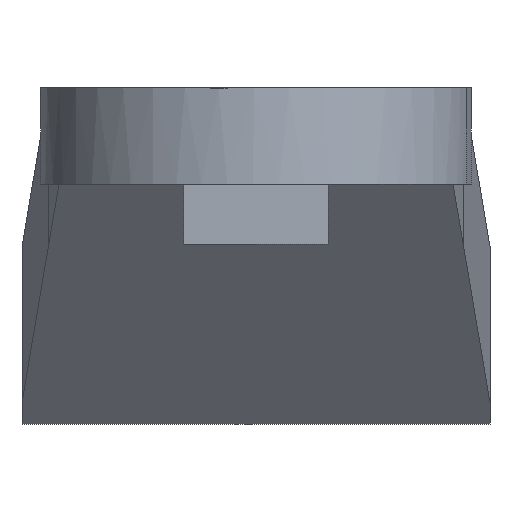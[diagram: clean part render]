
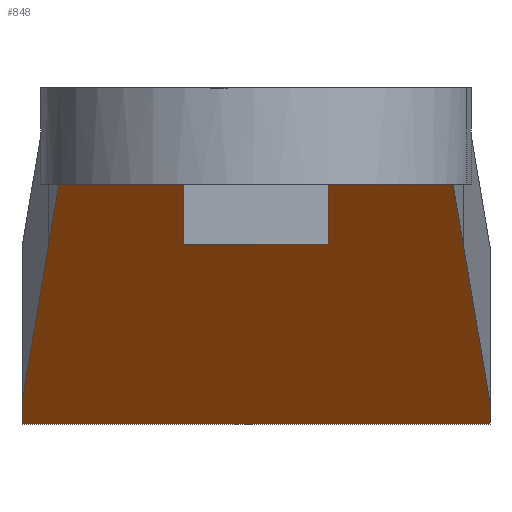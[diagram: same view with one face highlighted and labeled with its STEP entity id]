
A CAD part, left-side view. The second image highlights one B-rep face of the part: STEP entity #848.
In plain terms, the highlighted planar face has unit normal (-0.751, 0, -0.66).
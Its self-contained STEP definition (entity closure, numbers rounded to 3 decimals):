
#26 = DIRECTION ( 'NONE',  ( -0.66, 0., 0.751 ) ) ;
#54 = CARTESIAN_POINT ( 'NONE',  ( 15.712, -8.637, -2.517 ) ) ;
#59 = VERTEX_POINT ( 'NONE', #908 ) ;
#63 = CARTESIAN_POINT ( 'NONE',  ( 13.5, -8.212, 0. ) ) ;
#73 = CARTESIAN_POINT ( 'NONE',  ( 19.571, -9.379, -6.908 ) ) ;
#78 = AXIS2_PLACEMENT_3D ( 'NONE', #849, #669, #26 ) ;
#89 = CARTESIAN_POINT ( 'NONE',  ( 21.5, 9.75, -9.103 ) ) ;
#101 = CARTESIAN_POINT ( 'NONE',  ( 21.763, 9.75, -9.402 ) ) ;
#104 = ORIENTED_EDGE ( 'NONE', *, *, #248, .T. ) ;
#106 = CARTESIAN_POINT ( 'NONE',  ( 17.641, 9.008, -4.712 ) ) ;
#130 = CARTESIAN_POINT ( 'NONE',  ( 19.571, 9.379, -6.908 ) ) ;
#186 = CARTESIAN_POINT ( 'NONE',  ( 15.712, 8.637, -2.517 ) ) ;
#187 = EDGE_CURVE ( 'NONE', #889, #811, #755, .T. ) ;
#239 = EDGE_CURVE ( 'NONE', #904, #675, #887, .T. ) ;
#248 = EDGE_CURVE ( 'NONE', #464, #889, #665, .T. ) ;
#253 = CARTESIAN_POINT ( 'NONE',  ( 15.712, -8.637, -2.517 ) ) ;
#281 = CARTESIAN_POINT ( 'NONE',  ( 21.5, -9.75, -9.103 ) ) ;
#285 = CARTESIAN_POINT ( 'NONE',  ( 13.5, -8.212, 0. ) ) ;
#292 = CARTESIAN_POINT ( 'NONE',  ( 22.288, 3.25, -10. ) ) ;
#311 = CARTESIAN_POINT ( 'NONE',  ( 21.5, 9.75, -9.103 ) ) ;
#312 = ORIENTED_EDGE ( 'NONE', *, *, #239, .F. ) ;
#356 = ORIENTED_EDGE ( 'NONE', *, *, #1038, .T. ) ;
#373 = CARTESIAN_POINT ( 'NONE',  ( 14.975, 8.495, -1.678 ) ) ;
#378 = CARTESIAN_POINT ( 'NONE',  ( 22.025, 9.75, -9.701 ) ) ;
#380 = CARTESIAN_POINT ( 'NONE',  ( 22.288, 9.75, -10. ) ) ;
#407 = CARTESIAN_POINT ( 'NONE',  ( 21.5, 9.75, -9.103 ) ) ;
#423 = EDGE_CURVE ( 'NONE', #1160, #675, #559, .T. ) ;
#464 = VERTEX_POINT ( 'NONE', #646 ) ;
#486 = CARTESIAN_POINT ( 'NONE',  ( 13.5, 8.212, 0. ) ) ;
#559 = B_SPLINE_CURVE_WITH_KNOTS ( 'NONE', 3,
 ( #1184, #73, #994, #54 ),
 .UNSPECIFIED., .F., .F.,
 ( 4, 4 ),
 ( 0., 1. ),
 .UNSPECIFIED. ) ;
#564 = CARTESIAN_POINT ( 'NONE',  ( 22.288, -3.25, -10. ) ) ;
#572 = FACE_OUTER_BOUND ( 'NONE', #927, .T. ) ;
#575 = CARTESIAN_POINT ( 'NONE',  ( 15.712, -8.637, -2.517 ) ) ;
#578 = CARTESIAN_POINT ( 'NONE',  ( 13.5, -2.737, 0. ) ) ;
#581 = CARTESIAN_POINT ( 'NONE',  ( 21.5, -9.75, -9.103 ) ) ;
#595 = B_SPLINE_CURVE_WITH_KNOTS ( 'NONE', 3,
 ( #63, #578, #950, #1001 ),
 .UNSPECIFIED., .F., .F.,
 ( 4, 4 ),
 ( 0., 1. ),
 .UNSPECIFIED. ) ;
#610 = CARTESIAN_POINT ( 'NONE',  ( 13.5, -8.212, 0. ) ) ;
#646 = CARTESIAN_POINT ( 'NONE',  ( 15.712, 8.637, -2.517 ) ) ;
#660 = CARTESIAN_POINT ( 'NONE',  ( 14.237, -8.353, -0.839 ) ) ;
#665 = B_SPLINE_CURVE_WITH_KNOTS ( 'NONE', 3,
 ( #1121, #106, #130, #407 ),
 .UNSPECIFIED., .F., .F.,
 ( 4, 4 ),
 ( 0., 1. ),
 .UNSPECIFIED. ) ;
#667 = CARTESIAN_POINT ( 'NONE',  ( 14.975, -8.495, -1.678 ) ) ;
#669 = DIRECTION ( 'NONE',  ( -0.751, 0., -0.66 ) ) ;
#672 = CARTESIAN_POINT ( 'NONE',  ( 22.288, -9.75, -10. ) ) ;
#675 = VERTEX_POINT ( 'NONE', #253 ) ;
#676 = EDGE_CURVE ( 'NONE', #904, #1012, #595, .T. ) ;
#747 = CARTESIAN_POINT ( 'NONE',  ( 22.288, 9.75, -10. ) ) ;
#755 = B_SPLINE_CURVE_WITH_KNOTS ( 'NONE', 3,
 ( #89, #101, #378, #747 ),
 .UNSPECIFIED., .F., .F.,
 ( 4, 4 ),
 ( 0., 1. ),
 .UNSPECIFIED. ) ;
#756 = CARTESIAN_POINT ( 'NONE',  ( 21.763, -9.75, -9.402 ) ) ;
#808 = EDGE_CURVE ( 'NONE', #59, #1160, #1034, .T. ) ;
#811 = VERTEX_POINT ( 'NONE', #380 ) ;
#832 = ORIENTED_EDGE ( 'NONE', *, *, #676, .T. ) ;
#848 = ADVANCED_FACE ( 'NONE', ( #572 ), #944, .T. ) ;
#849 = CARTESIAN_POINT ( 'NONE',  ( 17.894, 15., -5. ) ) ;
#861 = B_SPLINE_CURVE_WITH_KNOTS ( 'NONE', 3,
 ( #1029, #292, #564, #672 ),
 .UNSPECIFIED., .F., .F.,
 ( 4, 4 ),
 ( 0., 1. ),
 .UNSPECIFIED. ) ;
#887 = B_SPLINE_CURVE_WITH_KNOTS ( 'NONE', 3,
 ( #285, #660, #667, #575 ),
 .UNSPECIFIED., .F., .F.,
 ( 4, 4 ),
 ( 0., 1. ),
 .UNSPECIFIED. ) ;
#889 = VERTEX_POINT ( 'NONE', #311 ) ;
#902 = ORIENTED_EDGE ( 'NONE', *, *, #808, .T. ) ;
#904 = VERTEX_POINT ( 'NONE', #610 ) ;
#908 = CARTESIAN_POINT ( 'NONE',  ( 22.288, -9.75, -10. ) ) ;
#921 = B_SPLINE_CURVE_WITH_KNOTS ( 'NONE', 3,
 ( #486, #1117, #373, #186 ),
 .UNSPECIFIED., .F., .F.,
 ( 4, 4 ),
 ( 0., 1. ),
 .UNSPECIFIED. ) ;
#927 = EDGE_LOOP ( 'NONE', ( #1031, #356, #902, #976, #312, #832, #982, #104 ) ) ;
#944 = PLANE ( 'NONE',  #78 ) ;
#950 = CARTESIAN_POINT ( 'NONE',  ( 13.5, 2.737, 0. ) ) ;
#955 = CARTESIAN_POINT ( 'NONE',  ( 22.288, -9.75, -10. ) ) ;
#976 = ORIENTED_EDGE ( 'NONE', *, *, #423, .T. ) ;
#982 = ORIENTED_EDGE ( 'NONE', *, *, #1098, .T. ) ;
#994 = CARTESIAN_POINT ( 'NONE',  ( 17.641, -9.008, -4.712 ) ) ;
#1001 = CARTESIAN_POINT ( 'NONE',  ( 13.5, 8.212, 0. ) ) ;
#1012 = VERTEX_POINT ( 'NONE', #1093 ) ;
#1029 = CARTESIAN_POINT ( 'NONE',  ( 22.288, 9.75, -10. ) ) ;
#1031 = ORIENTED_EDGE ( 'NONE', *, *, #187, .T. ) ;
#1034 = B_SPLINE_CURVE_WITH_KNOTS ( 'NONE', 3,
 ( #955, #1118, #756, #281 ),
 .UNSPECIFIED., .F., .F.,
 ( 4, 4 ),
 ( 0., 1. ),
 .UNSPECIFIED. ) ;
#1038 = EDGE_CURVE ( 'NONE', #811, #59, #861, .T. ) ;
#1093 = CARTESIAN_POINT ( 'NONE',  ( 13.5, 8.212, 0. ) ) ;
#1098 = EDGE_CURVE ( 'NONE', #1012, #464, #921, .T. ) ;
#1117 = CARTESIAN_POINT ( 'NONE',  ( 14.237, 8.353, -0.839 ) ) ;
#1118 = CARTESIAN_POINT ( 'NONE',  ( 22.025, -9.75, -9.701 ) ) ;
#1121 = CARTESIAN_POINT ( 'NONE',  ( 15.712, 8.637, -2.517 ) ) ;
#1160 = VERTEX_POINT ( 'NONE', #581 ) ;
#1184 = CARTESIAN_POINT ( 'NONE',  ( 21.5, -9.75, -9.103 ) ) ;
